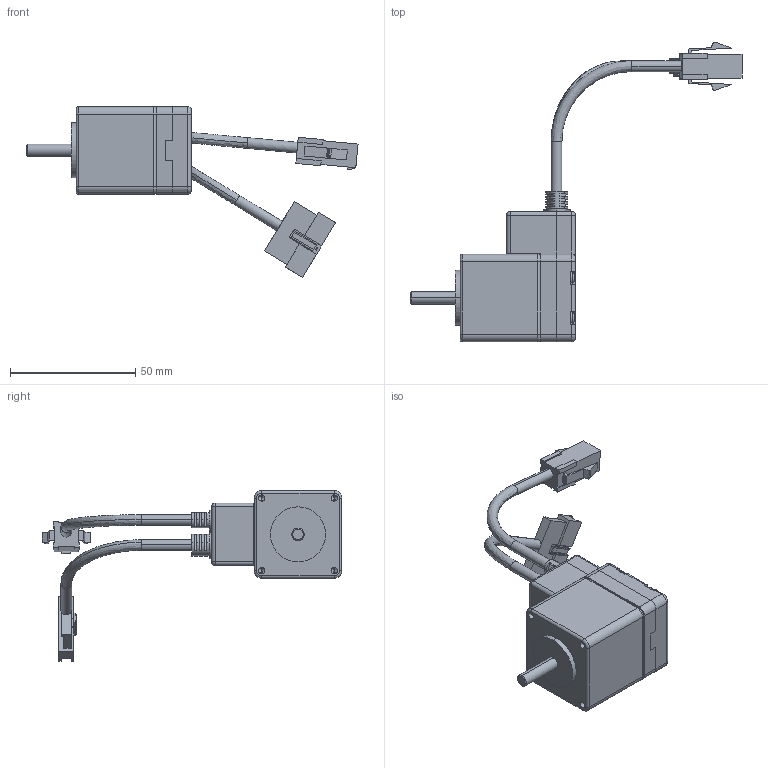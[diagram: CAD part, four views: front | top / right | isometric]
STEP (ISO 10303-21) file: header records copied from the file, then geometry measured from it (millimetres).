
FILE_DESCRIPTION (( 'STEP AP203' ), '1' );
FILE_NAME ('P11-MO-035-07-R00.STEP', '2018-02-01T00:05:18', ( '' ), ( '' ), 'SwSTEP 2.0', 'SolidWorks 2013', '' );
FILE_SCHEMA (( 'CONFIG_CONTROL_DESIGN' ));
Length unit declared in the file: millimetre
Products named in the file (9): S6B-PH-K-S; M11-MO-035-11-R00; P11-MO-035-07-R00; 35陝 賅攪瞪錳摹_ル遽; 35阿 浚内歹 纳捞喉急_钎霖; M11-EC-035-01-R00_ル遽; M11-EC-035-02-R00_ル遽; pan cross head_ks_KS 1023 PC- M2.6 x 14-N; 35M
Assembly tree (11 placements, depth 3):
  P11-MO-035-07-R00
    35陝 賅攪瞪錳摹_ル遽
    35阿 浚内歹 纳捞喉急_钎霖
    M11-EC-035-01-R00_ル遽
    M11-EC-035-02-R00_ル遽
    pan cross head_ks_KS 1023 PC- M2.6 x 14-N  x4
    M11-MO-035-11-R00
      35M
      S6B-PH-K-S
Bounding box: 132.52 x 119.61 x 68.25 mm (x, y, z)
Volume: 56292.1 mm3; surface area: 29214.7 mm2
Topology: 10 solids, 10 shells, 828 faces, 2148 edges, 1353 vertices
Faces by surface type: plane 477, cylinder 196, cone 111, torus 28, sphere 12, bspline 4
Entity records: 23170 total; most frequent: CARTESIAN_POINT 3943, DIRECTION 3883, ORIENTED_EDGE 3740, EDGE_CURVE 1870, VECTOR 1299, LINE 1299, AXIS2_PLACEMENT_3D 1292, VERTEX_POINT 1200
